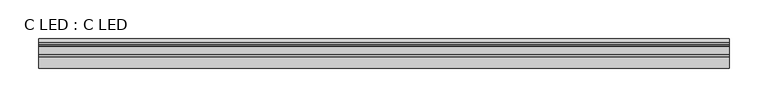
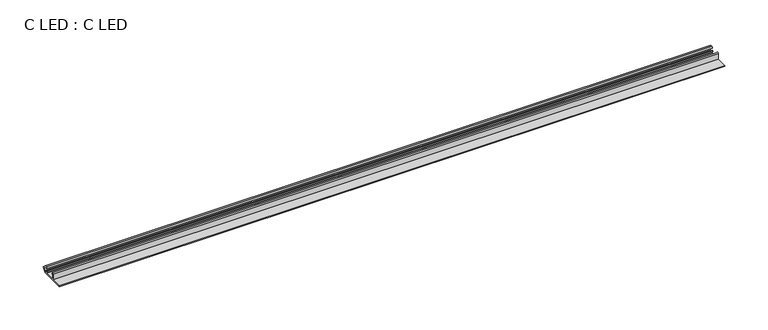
"""IFC4 building model written with IfcOpenShell, lengths in millimetres: proxy geometry, C LED : C LED."""

from ifc_helpers import new_model, si_unit, point, frame, frame_2d, origin, place, context, project, spatial, polyline, circle_curve, trimmed, segment, composite_curve, outline, extrude, source, transform, mapped, element, save


def c_led_c_led_2365758f(model_context):
    return source(origin(), model_context, "Body", "SweptSolid", [
        extrude(outline(composite_curve([segment(polyline([(-16.8000006, 7.8045541), (-16.8000006, 1.1999992), (-3.2940858, 1.1999992), (-3.2940858, 1.9999992)]), True, "CONTINUOUS"), segment(trimmed(circle_curve(frame_2d((-0.6483345, 4.9999992)), 4.0), [point((-3.2940858, 1.9999992))], [point((-4.6483345, 4.9999992))], False, "CARTESIAN"), True, "CONTINUOUS"), segment(polyline([(-4.6483345, 4.9999992), (-3.3983345, 4.9999992)]), True, "CONTINUOUS"), segment(trimmed(circle_curve(frame_2d((-0.6483345, 4.9999992)), 2.75), [point((-3.3983345, 4.9999992))], [point((-2.5928782, 3.0554556))], True, "CARTESIAN"), True, "CONTINUOUS"), segment(trimmed(circle_curve(frame_2d((-0.6483345, 4.9999992)), 2.75), [point((-2.5928782, 3.0554556))], [point((0.655408, 2.5786865))], True, "CARTESIAN"), True, "CONTINUOUS"), segment(trimmed(circle_curve(frame_2d((-0.6483345, 4.9999992)), 2.75), [point((0.655408, 2.5786865))], [point((2.0734708, 5.3927787))], True, "CARTESIAN"), True, "CONTINUOUS"), segment(trimmed(circle_curve(frame_2d((-0.6483345, 4.9999992)), 2.75), [point((2.0734708, 5.3927787))], [point((0.1618837, 7.627935))], True, "CARTESIAN"), True, "CONTINUOUS"), segment(polyline([(0.1618837, 7.627935), (-2.5031066, 7.8740971)]), True, "CONTINUOUS"), segment(trimmed(circle_curve(frame_2d((-2.9000006, 8.8999992)), 1.1), [point((-2.5031066, 7.8740971))], [point((-2.9000006, 9.9999992))], False, "CARTESIAN"), True, "CONTINUOUS"), segment(polyline([(-2.9000006, 9.9999992), (-6e-07, 9.9999992), (4.9999994, 4.9999992), (-6e-07, -8e-07), (-33.0000006, -8e-07), (-33.0000006, 1.1999992), (-18.0000006, 1.1999992), (-18.0000006, 8.8999992)]), True, "CONTINUOUS"), segment(trimmed(circle_curve(frame_2d((-16.9000006, 8.8999992)), 1.1), [point((-18.0000006, 8.8999992))], [point((-16.8000006, 7.8045541))], False, "CARTESIAN"), True, "CONTINUOUS")], self_intersect=False)), frame((1.0, 0.0, 0.0), z_axis=(1.0, 0.0, 0.0), x_axis=(0.0, 1.0, 0.0)), (0.0, 0.0, 1.0), 891.0),
    ])


if __name__ == "__main__":
    model = new_model("IFC4")
    model_context = context("Model", 3, world=origin())
    ifc_project = project(units=[si_unit("LENGTHUNIT", "METRE", prefix="MILLI")], contexts=[model_context])
    site = spatial("IfcSite", under=ifc_project)
    building = spatial("IfcBuilding", under=site)
    placement = place(None, origin())
    c_led_c_led_shape = c_led_c_led_2365758f(model_context)
    element("IfcBuildingElementProxy", 1, Name="C LED : C LED", ObjectType="C LED : C LED", at=placement, inside=building, context=model_context, shape_type="MappedRepresentation", body=[
        mapped(c_led_c_led_shape, transform((0.0, 0.0, 0.0), x_axis=(1.0, 0.0, 0.0), y_axis=(0.0, 1.0, 0.0), z_axis=(0.0, 0.0, 1.0))),
    ])
    save(model, "model.ifc")
